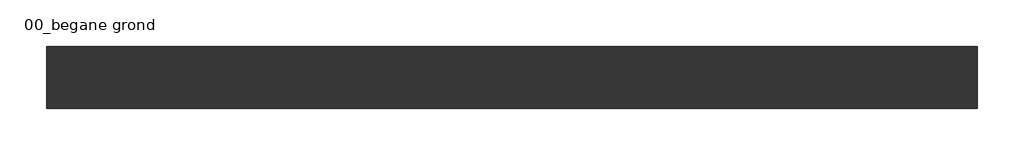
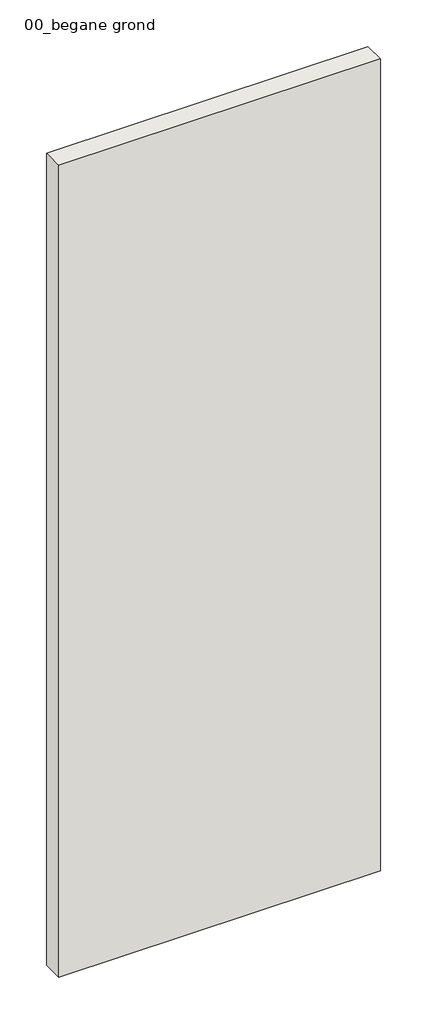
# One storey: 1 wall.
"""IFC4 building model written with IfcOpenShell, lengths in millimetres."""

import ifcopenshell
import ifcopenshell.guid

model = None  # the IFC model being written
_history = None  # IfcOwnerHistory: only IFC2X3 demands one
_inside = {}  # id of a spatial element -> (the spatial element, [elements in it])
_under = {}  # id of a project, library or spatial element -> (it, [spatial elements below it])
_declared = {}  # id of a project -> (the project, [libraries it declares])
_typed = {}  # id of a type object -> (the type object, [elements of that type])
_made_of = {}  # id of a material, layer set ... -> (it, [elements and type objects made of it])


def new_model(schema):
    """Start an empty IFC model of exactly this schema.

    Asked for "IFC4X3", IfcOpenShell would pick the latest addendum, in which some entities
    have other attributes; the version numbers below select the first issue.
    IFC2X3 requires an IfcOwnerHistory on every rooted entity: one is made here for all.
    """
    global model, _history
    if schema == "IFC4X3":
        model = ifcopenshell.file(schema_version=(4, 3, 0, 0))
    else:
        model = ifcopenshell.file(schema=schema)
    _inside.clear()
    _under.clear()
    _declared.clear()
    _typed.clear()
    _made_of.clear()
    _history = None
    if model.schema == "IFC2X3":
        org = make("IfcOrganization", Name="unknown")
        user = make(
            "IfcPersonAndOrganization",
            ThePerson=make("IfcPerson", FamilyName="unknown"),
            TheOrganization=org,
        )
        app = make(
            "IfcApplication",
            ApplicationDeveloper=org,
            Version="unknown",
            ApplicationFullName="unknown",
            ApplicationIdentifier="unknown",
        )
        _history = make(
            "IfcOwnerHistory",
            OwningUser=user,
            OwningApplication=app,
            ChangeAction="ADDED",
            CreationDate=0,
        )
    return model


def make(cls, **values):
    """One entity of the class cls with the attributes given. An attribute that is None is left unset."""
    return model.create_entity(
        cls, **{name: value for name, value in values.items() if value is not None}
    )


def rooted(cls, **values):
    """An entity with a GlobalId (a new one), such as an element, a storey or a relation."""
    return make(cls, GlobalId=ifcopenshell.guid.new(), OwnerHistory=_history, **values)


def si_unit(unit_type, name, prefix=None):
    """IfcSIUnit, for example si_unit("LENGTHUNIT", "METRE", prefix="MILLI")."""
    return make("IfcSIUnit", UnitType=unit_type, Prefix=prefix, Name=name)


def assignment(units):
    """IfcUnitAssignment: the units of a project."""
    return None if units is None else make("IfcUnitAssignment", Units=units)


def point(xyz):
    """IfcCartesianPoint."""
    return None if xyz is None else make("IfcCartesianPoint", Coordinates=xyz)


def direction(xyz):
    """IfcDirection."""
    return None if xyz is None else make("IfcDirection", DirectionRatios=xyz)


def frame(location, z_axis=None, x_axis=None):
    """IfcAxis2Placement3D, a coordinate frame: its origin and axes. An axis left out is left unset."""
    return make(
        "IfcAxis2Placement3D",
        Location=point(location),
        Axis=direction(z_axis),
        RefDirection=direction(x_axis),
    )


def origin():
    """The frame at (0, 0, 0) with its axes left unset."""
    return frame((0.0, 0.0, 0.0))


def origin_with_axes():
    """The frame at (0, 0, 0) with the z axis (0, 0, 1) and the x axis (1, 0, 0) written out."""
    return frame((0.0, 0.0, 0.0), z_axis=(0.0, 0.0, 1.0), x_axis=(1.0, 0.0, 0.0))


def place(relative_to, where):
    """IfcLocalPlacement: puts the frame where relative to a parent placement (None: the world)."""
    return make(
        "IfcLocalPlacement", PlacementRelTo=relative_to, RelativePlacement=where
    )


def context(
    kind, dimensions, precision=None, world=None, true_north=None, identifier=None
):
    """IfcGeometricRepresentationContext, for example the 3D "Model" context."""
    return make(
        "IfcGeometricRepresentationContext",
        ContextIdentifier=identifier,
        ContextType=kind,
        CoordinateSpaceDimension=dimensions,
        Precision=precision,
        WorldCoordinateSystem=world,
        TrueNorth=true_north,
    )


def project(units=None, contexts=None):
    """IfcProject with its units and contexts."""
    return rooted(
        "IfcProject",
        Name="project",
        RepresentationContexts=contexts,
        UnitsInContext=assignment(units),
    )


def spatial(cls, under=None, at=None, **own):
    """A site, building, storey or space (cls), placed at a placement, below another one or the project."""
    s = rooted(cls, ObjectPlacement=at, **own)
    if under is not None:
        _under.setdefault(under.id(), (under, []))[1].append(s)
    return s


def polyline(points):
    """IfcPolyline through the points."""
    return make("IfcPolyline", Points=[point(p) for p in points])


def outline(outer, holes=None, kind="AREA"):
    """IfcArbitraryClosedProfileDef: a profile drawn as a closed curve; with holes, ...WithVoids."""
    if holes is None:
        return make("IfcArbitraryClosedProfileDef", ProfileType=kind, OuterCurve=outer)
    return make(
        "IfcArbitraryProfileDefWithVoids",
        ProfileType=kind,
        OuterCurve=outer,
        InnerCurves=holes,
    )


def extrude(swept, where, along, depth):
    """IfcExtrudedAreaSolid: the profile swept, set in the frame where, extruded along a direction by depth."""
    return make(
        "IfcExtrudedAreaSolid",
        SweptArea=swept,
        Position=where,
        ExtrudedDirection=direction(along),
        Depth=depth,
    )


def shape(context_of_items, identifier, shape_type, items):
    """IfcShapeRepresentation: the items that make up one representation, for example the "Body"."""
    return make(
        "IfcShapeRepresentation",
        ContextOfItems=context_of_items,
        RepresentationIdentifier=identifier,
        RepresentationType=shape_type,
        Items=items,
    )


def made_of(thing, what):
    """Note that an element or type object is made of a material, layer set ...; save() writes the relation."""
    if what is not None:
        _made_of.setdefault(what.id(), (what, []))[1].append(thing)
    return thing


def element(
    cls,
    number,
    at=None,
    inside=None,
    cuts=None,
    type_object=None,
    material=None,
    context=None,
    identifier="Body",
    shape_type=None,
    held_by="IfcProductDefinitionShape",
    body=None,
    shapes=None,
    **own,
):
    """One element of the class cls, such as IfcWall. Its Tag is "e" and its number.

    at: its placement. inside: the storey or other place that contains it. cuts: it is an
    opening in that element (IfcRelVoidsElement). A single representation is given by context,
    identifier, shape_type and body (its items); several are given by shapes. held_by: the class
    of the entity that holds the representations. save() writes the other relations.
    """
    e = rooted(cls, Tag="e%d" % number, ObjectPlacement=at, **own)
    if body is not None:
        shapes = [shape(context, identifier, shape_type, body)]
    if shapes is not None:
        e.Representation = make(held_by, Representations=shapes)
    if inside is not None:
        _inside.setdefault(inside.id(), (inside, []))[1].append(e)
    if cuts is not None:
        rooted(
            "IfcRelVoidsElement", RelatingBuildingElement=cuts, RelatedOpeningElement=e
        )
    if type_object is not None:
        _typed.setdefault(type_object.id(), (type_object, []))[1].append(e)
    return made_of(e, material)


def aggregate(whole, parts):
    """IfcRelAggregates: a whole, such as a stair, and the parts it consists of."""
    return rooted("IfcRelAggregates", RelatingObject=whole, RelatedObjects=parts)


def save(model, path):
    """Write the relations noted so far, then the file.

    IfcRelAggregates (storeys below a building ...), IfcRelContainedInSpatialStructure (elements
    in a storey), IfcRelDefinesByType, IfcRelAssociatesMaterial and IfcRelDeclares: one each for
    every whole, place, type object, material and project.
    """
    for whole, parts in _under.values():
        aggregate(whole, parts)
    for where, things in _inside.values():
        rooted(
            "IfcRelContainedInSpatialStructure",
            RelatedElements=things,
            RelatingStructure=where,
        )
    for kind, things in _typed.values():
        rooted("IfcRelDefinesByType", RelatedObjects=things, RelatingType=kind)
    for what, things in _made_of.values():
        rooted("IfcRelAssociatesMaterial", RelatedObjects=things, RelatingMaterial=what)
    for by, libraries in _declared.values():
        rooted("IfcRelDeclares", RelatingContext=by, RelatedDefinitions=libraries)
    model.write(path)


model = new_model("IFC4")

# Units and contexts
model_context = context("Model", 3, world=origin())
ifc_project = project(units=[si_unit("LENGTHUNIT", "METRE", prefix="MILLI")], contexts=[model_context])

# Site, building, storey
site = spatial("IfcSite", under=ifc_project)
building = spatial("IfcBuilding", under=site)
storey = spatial("IfcBuildingStorey", under=building, Name="00_begane grond", Elevation=0.0)

# Wall
placement = place(None, origin())
element("IfcWall", 1, ObjectType="20_WA_wand_generiek_100", at=placement, inside=storey, context=model_context, shape_type="SweptSolid", body=[
    extrude(outline(polyline([(31189.8687149, -6298.9380074), (29689.8687149, -6298.9380074), (29689.8687149, -6198.9380074), (31189.8687149, -6198.9380074), (31189.8687149, -6298.9380074)])), origin_with_axes(), (0.0, 0.0, 1.0), 4000.0),
])

save(model, "model.ifc")
